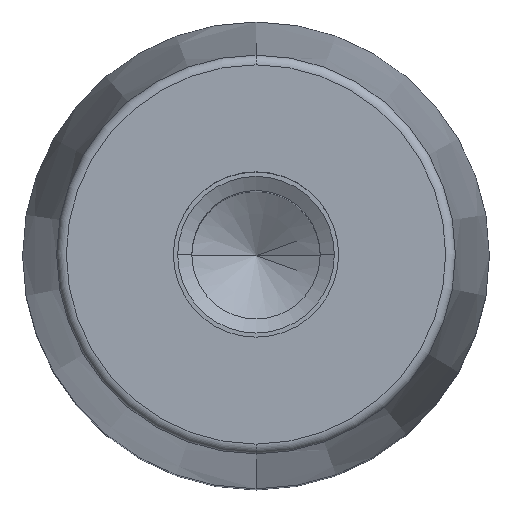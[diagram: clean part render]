
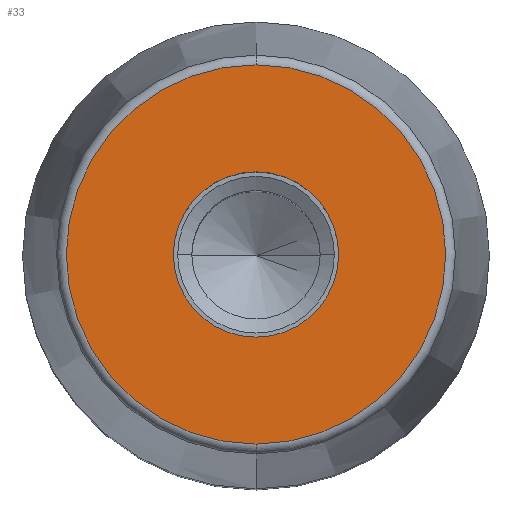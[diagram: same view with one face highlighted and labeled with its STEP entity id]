
A CAD part, top view. The second image highlights one B-rep face of the part: STEP entity #33.
In plain terms, the highlighted planar face has unit normal (0, 0, 1).
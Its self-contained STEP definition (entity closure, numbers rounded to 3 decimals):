
#4 = DIRECTION ( 'NONE',  ( 0., 1., 0. ) ) ;
#33 = ADVANCED_FACE ( 'NONE', ( #532, #315 ), #88, .F. ) ;
#81 = EDGE_LOOP ( 'NONE', ( #435, #408 ) ) ;
#87 = CARTESIAN_POINT ( 'NONE',  ( 0., 0., 0. ) ) ;
#88 = PLANE ( 'NONE',  #127 ) ;
#95 = CARTESIAN_POINT ( 'NONE',  ( 0., 4.25, 0. ) ) ;
#100 = CIRCLE ( 'NONE', #338, 4.25 ) ;
#110 = CARTESIAN_POINT ( 'NONE',  ( 0., -4.25, 0. ) ) ;
#127 = AXIS2_PLACEMENT_3D ( 'NONE', #95, #446, #4 ) ;
#132 = ORIENTED_EDGE ( 'NONE', *, *, #192, .T. ) ;
#136 = CIRCLE ( 'NONE', #439, 9.751 ) ;
#139 = CARTESIAN_POINT ( 'NONE',  ( 0., 9.751, 0. ) ) ;
#157 = DIRECTION ( 'NONE',  ( 0., 0., 1. ) ) ;
#167 = DIRECTION ( 'NONE',  ( 0., -1., 0. ) ) ;
#192 = EDGE_CURVE ( 'NONE', #201, #340, #136, .T. ) ;
#201 = VERTEX_POINT ( 'NONE', #256 ) ;
#231 = EDGE_CURVE ( 'NONE', #340, #201, #487, .T. ) ;
#240 = AXIS2_PLACEMENT_3D ( 'NONE', #87, #314, #491 ) ;
#256 = CARTESIAN_POINT ( 'NONE',  ( 0., -9.751, 0. ) ) ;
#280 = EDGE_CURVE ( 'NONE', #546, #422, #100, .T. ) ;
#296 = EDGE_LOOP ( 'NONE', ( #132, #420 ) ) ;
#310 = DIRECTION ( 'NONE',  ( 0., 0., 1. ) ) ;
#314 = DIRECTION ( 'NONE',  ( 0., 0., 1. ) ) ;
#315 = FACE_OUTER_BOUND ( 'NONE', #296, .T. ) ;
#338 = AXIS2_PLACEMENT_3D ( 'NONE', #526, #310, #482 ) ;
#340 = VERTEX_POINT ( 'NONE', #139 ) ;
#354 = EDGE_CURVE ( 'NONE', #422, #546, #458, .T. ) ;
#386 = DIRECTION ( 'NONE',  ( 0., -1., 0. ) ) ;
#408 = ORIENTED_EDGE ( 'NONE', *, *, #280, .F. ) ;
#419 = DIRECTION ( 'NONE',  ( 0., 0., 1. ) ) ;
#420 = ORIENTED_EDGE ( 'NONE', *, *, #231, .T. ) ;
#422 = VERTEX_POINT ( 'NONE', #110 ) ;
#435 = ORIENTED_EDGE ( 'NONE', *, *, #354, .F. ) ;
#439 = AXIS2_PLACEMENT_3D ( 'NONE', #520, #157, #167 ) ;
#446 = DIRECTION ( 'NONE',  ( 0., 0., -1. ) ) ;
#457 = AXIS2_PLACEMENT_3D ( 'NONE', #554, #419, #386 ) ;
#458 = CIRCLE ( 'NONE', #240, 4.25 ) ;
#482 = DIRECTION ( 'NONE',  ( 0., -1., 0. ) ) ;
#487 = CIRCLE ( 'NONE', #457, 9.751 ) ;
#491 = DIRECTION ( 'NONE',  ( 0., -1., 0. ) ) ;
#520 = CARTESIAN_POINT ( 'NONE',  ( 0., 0., 0. ) ) ;
#526 = CARTESIAN_POINT ( 'NONE',  ( 0., 0., 0. ) ) ;
#532 = FACE_BOUND ( 'NONE', #81, .T. ) ;
#546 = VERTEX_POINT ( 'NONE', #565 ) ;
#554 = CARTESIAN_POINT ( 'NONE',  ( 0., 0., 0. ) ) ;
#565 = CARTESIAN_POINT ( 'NONE',  ( 0., 4.25, 0. ) ) ;
